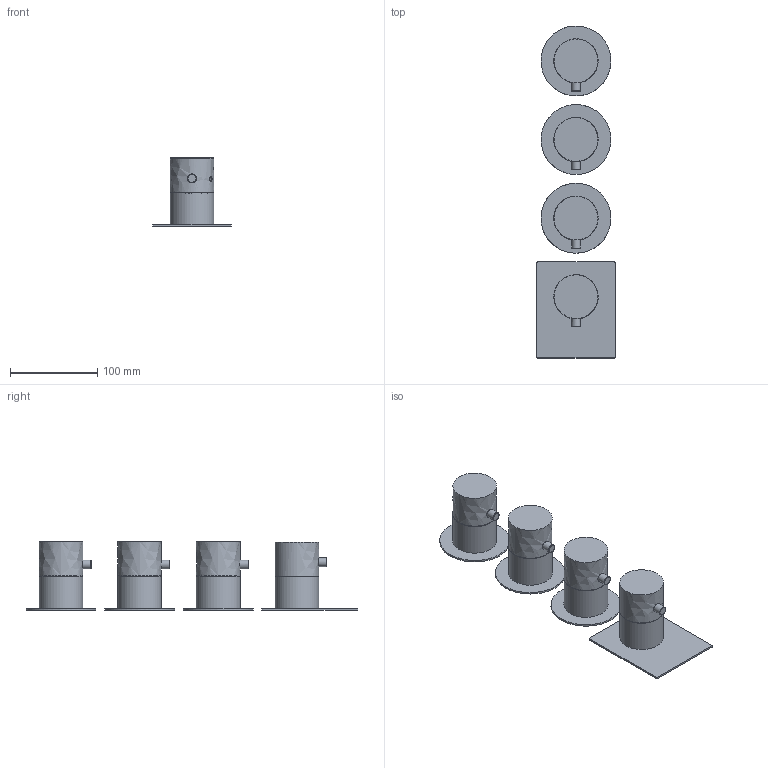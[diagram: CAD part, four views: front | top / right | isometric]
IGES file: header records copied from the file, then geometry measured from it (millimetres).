
Global section: file name: PR47HF201; native system: Autodesk Inventor 2017; preprocessor: unknown; author: CIANI A.; date: 20190211.114527; units: millimetre
Bounding box: 90 x 379.98 x 78.5 mm (x, y, z)
Volume: 651296.9 mm3; surface area: 109984.3 mm2
Topology: 5 solids, 5 shells, 130 faces, 290 edges, 209 vertices
Faces by surface type: bspline 130
